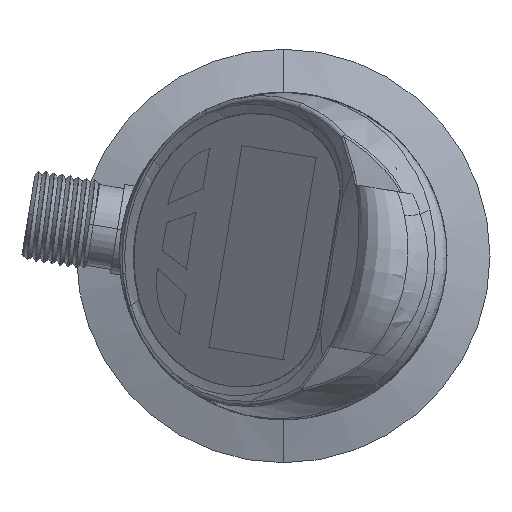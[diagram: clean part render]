
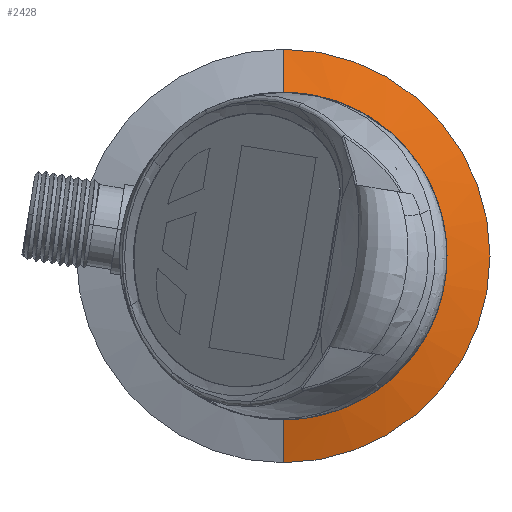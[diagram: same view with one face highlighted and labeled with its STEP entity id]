
A CAD part, front view. The second image highlights one B-rep face of the part: STEP entity #2428.
In plain terms, the highlighted conical face has half-angle 72.766 degrees and reference radius 13 mm.
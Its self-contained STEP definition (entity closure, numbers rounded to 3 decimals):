
#529 = AXIS2_PLACEMENT_3D ( 'NONE', #13987, #5646, #8278 ) ;
#694 = CARTESIAN_POINT ( 'NONE',  ( 0., 0., 13. ) ) ;
#2264 = DIRECTION ( 'NONE',  ( 0., 0., 1. ) ) ;
#2428 = ADVANCED_FACE ( 'NONE', ( #12797 ), #9329, .T. ) ;
#2885 = CIRCLE ( 'NONE', #9300, 25.25 ) ;
#3086 = ORIENTED_EDGE ( 'NONE', *, *, #11505, .F. ) ;
#3102 = CARTESIAN_POINT ( 'NONE',  ( 0., 3.8, 25.25 ) ) ;
#3693 = CARTESIAN_POINT ( 'NONE',  ( 0., 3.8, -25.25 ) ) ;
#4561 = DIRECTION ( 'NONE',  ( 0., 0.296, -0.955 ) ) ;
#5255 = VERTEX_POINT ( 'NONE', #16390 ) ;
#5646 = DIRECTION ( 'NONE',  ( 0., 1., 0. ) ) ;
#5914 = DIRECTION ( 'NONE',  ( 0., 1., 0. ) ) ;
#6254 = DIRECTION ( 'NONE',  ( 0., 1., 0. ) ) ;
#6343 = ORIENTED_EDGE ( 'NONE', *, *, #16704, .T. ) ;
#6467 = DIRECTION ( 'NONE',  ( 0., 0.296, 0.955 ) ) ;
#7460 = DIRECTION ( 'NONE',  ( 0., 0., 1. ) ) ;
#7803 = EDGE_LOOP ( 'NONE', ( #7960, #6343, #11058, #3086 ) ) ;
#7960 = ORIENTED_EDGE ( 'NONE', *, *, #16476, .T. ) ;
#8064 = VERTEX_POINT ( 'NONE', #3693 ) ;
#8278 = DIRECTION ( 'NONE',  ( 0., 0., 1. ) ) ;
#8309 = CARTESIAN_POINT ( 'NONE',  ( 0., 0., -13. ) ) ;
#8978 = VECTOR ( 'NONE', #6467, 1000. ) ;
#9294 = VERTEX_POINT ( 'NONE', #3102 ) ;
#9300 = AXIS2_PLACEMENT_3D ( 'NONE', #13321, #6254, #2264 ) ;
#9329 = CONICAL_SURFACE ( 'NONE', #11646, 13., 1.27 ) ;
#10479 = LINE ( 'NONE', #694, #8978 ) ;
#11058 = ORIENTED_EDGE ( 'NONE', *, *, #11738, .F. ) ;
#11505 = EDGE_CURVE ( 'NONE', #5255, #9294, #10479, .T. ) ;
#11640 = CARTESIAN_POINT ( 'NONE',  ( 0., 0., -13. ) ) ;
#11646 = AXIS2_PLACEMENT_3D ( 'NONE', #16893, #5914, #7460 ) ;
#11738 = EDGE_CURVE ( 'NONE', #9294, #8064, #2885, .T. ) ;
#12797 = FACE_OUTER_BOUND ( 'NONE', #7803, .T. ) ;
#13321 = CARTESIAN_POINT ( 'NONE',  ( 0., 3.8, 0. ) ) ;
#13987 = CARTESIAN_POINT ( 'NONE',  ( 0., 0., 0. ) ) ;
#14694 = CIRCLE ( 'NONE', #529, 13. ) ;
#15804 = LINE ( 'NONE', #11640, #17888 ) ;
#16390 = CARTESIAN_POINT ( 'NONE',  ( 0., 0., 13. ) ) ;
#16476 = EDGE_CURVE ( 'NONE', #5255, #17222, #14694, .T. ) ;
#16704 = EDGE_CURVE ( 'NONE', #17222, #8064, #15804, .T. ) ;
#16893 = CARTESIAN_POINT ( 'NONE',  ( 0., 0., 0. ) ) ;
#17222 = VERTEX_POINT ( 'NONE', #8309 ) ;
#17888 = VECTOR ( 'NONE', #4561, 1000. ) ;
